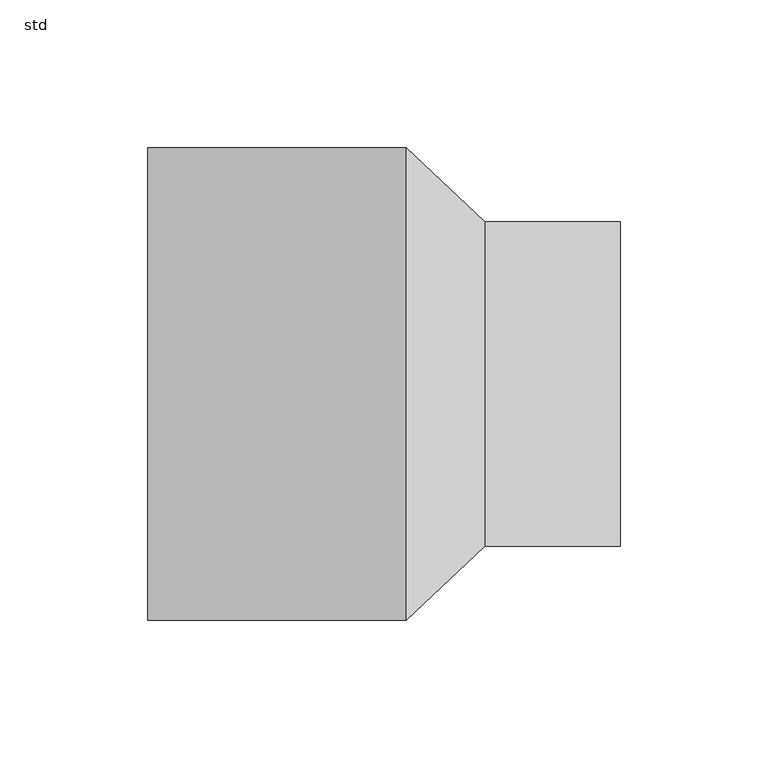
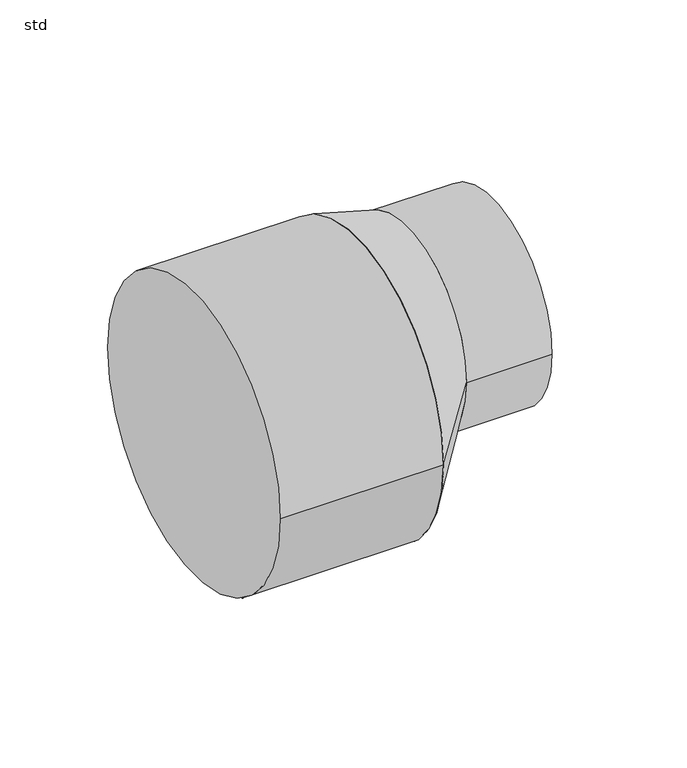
"""IFC4 building model written with IfcOpenShell, lengths in millimetres: pipe fitting geometry, ZZZ_do not use_PIF_ST_UN_ACO pipe increaser coupling_ACO : std."""

from ifc_helpers import new_model, si_unit, point, frame, frame_2d, origin, origin_2d, place, context, project, spatial, circle_curve, trimmed, segment, composite_curve, outline, extrude, source, transform, mapped, element, save
from ifc_brep_helpers import plane_surface, spline_surface, advanced_brep


def std_53fa1e38(model_context):
    return source(origin(), model_context, "Body", "SolidModel", [
        advanced_brep(
        [(34.1666667, -55.0, 22.0), (34.1666667, 55.0, 22.0), (7.5, -80.0, 0.0), (7.5, 80.0, 0.0)],
        [
            (0, 1, circle_curve(frame((34.1666667, 0.0, 22.0), z_axis=(1.0, 0.0, 0.0), x_axis=(0.0, 1.0, 0.0)), 55.0)),
            (1, 0, circle_curve(frame((34.1666667, 0.0, 22.0), z_axis=(1.0, 0.0, 0.0), x_axis=(0.0, 1.0, 0.0)), 55.0)),
            (2, 3, circle_curve(frame((7.5, 0.0, 0.0), z_axis=(-1.0, 0.0, 0.0), x_axis=(0.0, 1.0, 0.0)), 80.0)),
            (3, 2, circle_curve(frame((7.5, 0.0, 0.0), z_axis=(-1.0, 0.0, 0.0), x_axis=(0.0, 1.0, 0.0)), 80.0)),
            (3, 1),
            (0, 2),
        ],
        [
            plane_surface(frame((34.1666667, 0.0, 22.0), z_axis=(1.0, 0.0, 0.0), x_axis=(0.0, 0.0, -1.0))),
            plane_surface(frame((7.5, 0.0, 0.0), z_axis=(-1.0, 0.0, 0.0), x_axis=(0.0, 0.0, -1.0))),
            spline_surface(2, 1, [[(7.5, -80.0, 0.0), (34.1666667, -55.0, 22.0)], [(7.5, -80.0, -80.0), (34.1666667, -55.0, -33.0)], [(7.5, 0.0, -80.0), (34.1666667, 0.0, -33.0)], [(7.5, 80.0, -80.0), (34.1666667, 55.0, -33.0)], [(7.5, 80.0, 0.0), (34.1666667, 55.0, 22.0)]], [3, 2, 3], [2, 2], [0.0, 1.0, 2.0], [0.0, 1.0], weights=[[1.0, 1.0], [0.7071067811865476, 0.7071067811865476], [1.0, 1.0], [0.7071067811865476, 0.7071067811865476], [1.0, 1.0]]),
            spline_surface(2, 1, [[(7.5, 80.0, 0.0), (34.1666667, 55.0, 22.0)], [(7.5, 80.0, 80.0), (34.1666667, 55.0, 77.0)], [(7.5, 0.0, 80.0), (34.1666667, 0.0, 77.0)], [(7.5, -80.0, 80.0), (34.1666667, -55.0, 77.0)], [(7.5, -80.0, 0.0), (34.1666667, -55.0, 22.0)]], [3, 2, 3], [2, 2], [0.0, 1.0, 2.0], [0.0, 1.0], weights=[[1.0, 1.0], [0.7071067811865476, 0.7071067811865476], [1.0, 1.0], [0.7071067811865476, 0.7071067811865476], [1.0, 1.0]]),
        ],
        [
            (0, [[1, 2]]),
            (1, [[3, 4]]),
            (2, [[-4, 5, -1, 6]]),
            (3, [[-3, -6, -2, -5]]),
        ],
    ),
        extrude(outline(composite_curve([segment(trimmed(circle_curve(frame_2d((0.0, 22.0)), 55.0), [point((55.0, 22.0))], [point((-55.0, 22.0))], False, "CARTESIAN"), True, "CONTINUOUS"), segment(trimmed(circle_curve(frame_2d((0.0, 22.0)), 55.0), [point((-55.0, 22.0))], [point((55.0, 22.0))], False, "CARTESIAN"), True, "CONTINUOUS")], self_intersect=False)), frame((34.1666667, 0.0, 0.0), z_axis=(1.0, 0.0, 0.0), x_axis=(0.0, 1.0, 0.0)), (0.0, 0.0, 1.0), 45.8333333),
        extrude(outline(composite_curve([segment(trimmed(circle_curve(origin_2d(), 80.0), [point((-80.0, 0.0))], [point((80.0, 0.0))], False, "CARTESIAN"), True, "CONTINUOUS"), segment(trimmed(circle_curve(origin_2d(), 80.0), [point((80.0, 0.0))], [point((-80.0, 0.0))], False, "CARTESIAN"), True, "CONTINUOUS")], self_intersect=False)), frame((-80.0, 0.0, 0.0), z_axis=(1.0, 0.0, 0.0), x_axis=(0.0, 1.0, 0.0)), (0.0, 0.0, 1.0), 87.5),
    ])


if __name__ == "__main__":
    model = new_model("IFC4")
    model_context = context("Model", 3, world=origin())
    ifc_project = project(units=[si_unit("LENGTHUNIT", "METRE", prefix="MILLI")], contexts=[model_context])
    site = spatial("IfcSite", under=ifc_project)
    building = spatial("IfcBuilding", under=site)
    placement = place(None, origin())
    std_shape = std_53fa1e38(model_context)
    element("IfcPipeFitting", 1, ObjectType="ZZZ_do not use_PIF_ST_UN_ACO pipe increaser coupling_ACO : std", at=placement, inside=building, context=model_context, shape_type="MappedRepresentation", body=[
        mapped(std_shape, transform((0.0, 0.0, 0.0), x_axis=(1.0, 0.0, 0.0), y_axis=(0.0, 1.0, 0.0), z_axis=(0.0, 0.0, 1.0))),
    ])
    save(model, "model.ifc")
